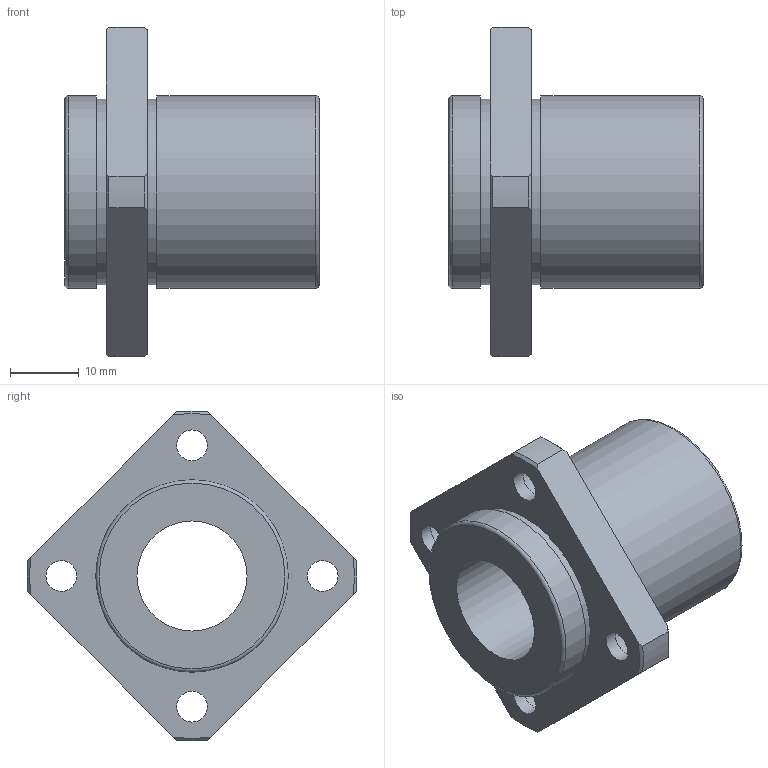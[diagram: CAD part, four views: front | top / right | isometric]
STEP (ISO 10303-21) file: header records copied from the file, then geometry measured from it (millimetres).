
FILE_DESCRIPTION(('STEP AP203'),'1');
FILE_NAME('//192.168.1.1/share/s-4 技術開発/s-4-4_CAD/s-4-4-3_見直し済み/002 修正済み/NFIS-V/NFIS-V_TOP/NFIS-16VUU.step','2022-03-08T02:23:21',(' '),(' '),'Spatial InterOp 3D',' ',' ');
FILE_SCHEMA(('CONFIG_CONTROL_DESIGN'));
Length unit declared in the file: millimetre
Products named in the file (1): 1
Bounding box: 37 x 47.98 x 47.98 mm (x, y, z)
Volume: 18768.3 mm3; surface area: 8209.7 mm2
Topology: 1 solids, 1 shells, 41 faces, 97 edges, 66 vertices
Faces by surface type: cylinder 17, plane 14, cone 8, torus 2
Full cylindrical faces by diameter (mm): 4.5 x4, 7.5 x4, 16 x1, 27 x2, 28 x2
Entity records: 1158 total; most frequent: CARTESIAN_POINT 226, DIRECTION 188, ORIENTED_EDGE 152, AXIS2_PLACEMENT_3D 86, EDGE_CURVE 76, EDGE_LOOP 74, VERTEX_POINT 60, FACE_OUTER_BOUND 56
